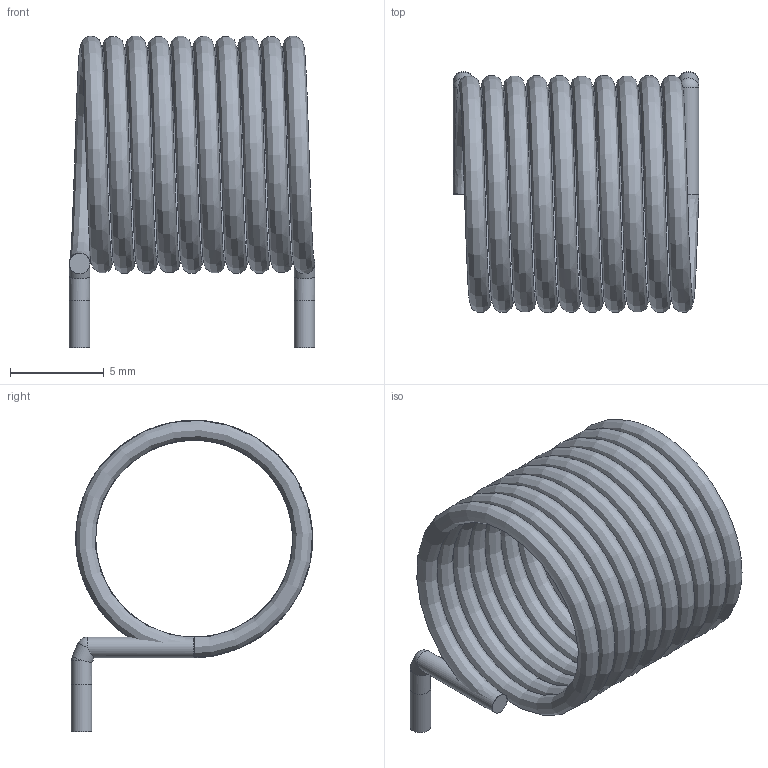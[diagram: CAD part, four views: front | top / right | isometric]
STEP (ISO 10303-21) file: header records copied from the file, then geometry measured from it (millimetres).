
FILE_DESCRIPTION(('Open CASCADE Model'),'2;1');
FILE_NAME('Open CASCADE Shape Model','2026-10-15T22:17:37',('Author'),( 'Open CASCADE'),'Open CASCADE STEP processor 7.9','Open CASCADE 7.9' ,'Unknown');
FILE_SCHEMA(('AUTOMOTIVE_DESIGN { 1 0 10303 214 1 1 1 1 }'));
Length unit declared in the file: millimetre
Products named in the file (6): L1_horizontal_air_core; Copper_winding; Copper_lead_1; Tinned_pin_1; Copper_lead_2; Tinned_pin_2
Assembly tree (5 placements, depth 2):
  L1_horizontal_air_core
    Copper_winding
    Copper_lead_1
    Tinned_pin_1
    Copper_lead_2
    Tinned_pin_2
Bounding box: 13.1 x 12.87 x 16.62 mm (x, y, z)
Volume: 366 mm3; surface area: 1340.3 mm2
Topology: 5 solids, 5 shells, 23 faces, 41 edges, 26 vertices
Faces by surface type: plane 10, cylinder 8, sphere 4, bspline 1
Full cylindrical faces by diameter (mm): 1.1 x8
Entity records: 2376 total; most frequent: CARTESIAN_POINT 1415, DIRECTION 171, ORIENTED_EDGE 78, PCURVE 78, DEFINITIONAL_REPRESENTATION 78, AXIS2_PLACEMENT_3D 56, LINE 51, VECTOR 51
